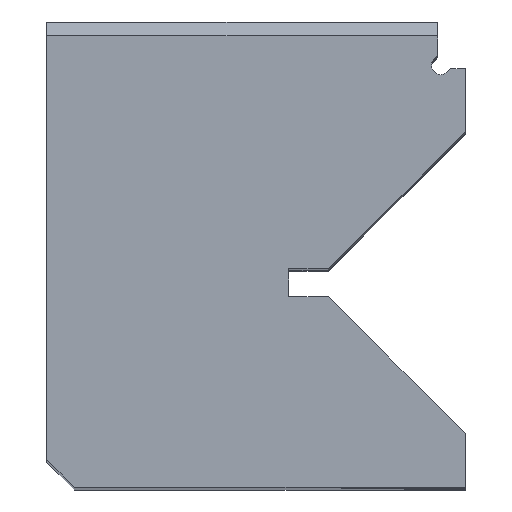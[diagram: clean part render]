
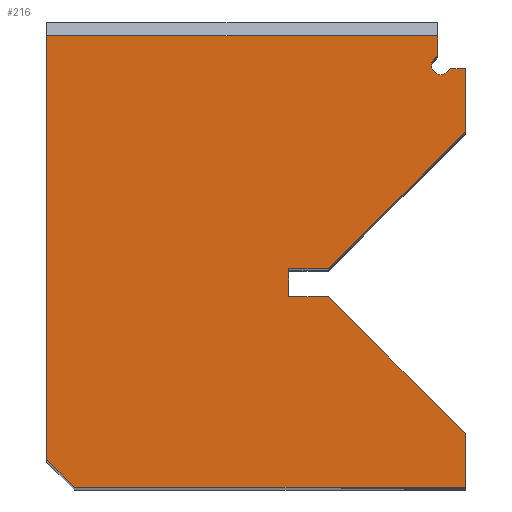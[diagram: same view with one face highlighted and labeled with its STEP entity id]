
A CAD part, top view. The second image highlights one B-rep face of the part: STEP entity #216.
In plain terms, the highlighted planar face has unit normal (0, 0, 1).
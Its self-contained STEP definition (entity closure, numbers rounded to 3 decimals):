
#41 = VERTEX_POINT ( 'NONE', #1010 ) ;
#53 = CARTESIAN_POINT ( 'NONE',  ( 45., 45., 80. ) ) ;
#59 = CARTESIAN_POINT ( 'NONE',  ( 0., 50., 80. ) ) ;
#74 = DIRECTION ( 'NONE',  ( 0., 0., 1. ) ) ;
#102 = VECTOR ( 'NONE', #890, 1000. ) ;
#112 = VECTOR ( 'NONE', #714, 1000. ) ;
#120 = DIRECTION ( 'NONE',  ( 0., -1., 0. ) ) ;
#140 = CARTESIAN_POINT ( 'NONE',  ( 30.287, 23.5, 80. ) ) ;
#145 = EDGE_CURVE ( 'NONE', #1064, #1515, #390, .T. ) ;
#151 = VERTEX_POINT ( 'NONE', #140 ) ;
#162 = ORIENTED_EDGE ( 'NONE', *, *, #233, .F. ) ;
#166 = CARTESIAN_POINT ( 'NONE',  ( 3., 0., 80. ) ) ;
#169 = DIRECTION ( 'NONE',  ( -0.707, -0.707, 0. ) ) ;
#171 = VECTOR ( 'NONE', #286, 1000. ) ;
#175 = CARTESIAN_POINT ( 'NONE',  ( 26., 23.5, 80. ) ) ;
#193 = LINE ( 'NONE', #226, #654 ) ;
#201 = CARTESIAN_POINT ( 'NONE',  ( 45., 0., 80. ) ) ;
#216 = ADVANCED_FACE ( 'NONE', ( #317 ), #597, .T. ) ;
#224 = CARTESIAN_POINT ( 'NONE',  ( 43.414, 45., 80. ) ) ;
#226 = CARTESIAN_POINT ( 'NONE',  ( 30.287, 20.5, 80. ) ) ;
#228 = VERTEX_POINT ( 'NONE', #1452 ) ;
#233 = EDGE_CURVE ( 'NONE', #1276, #540, #1265, .T. ) ;
#234 = ORIENTED_EDGE ( 'NONE', *, *, #612, .T. ) ;
#235 = ORIENTED_EDGE ( 'NONE', *, *, #963, .F. ) ;
#238 = DIRECTION ( 'NONE',  ( 0., 0., 1. ) ) ;
#262 = CARTESIAN_POINT ( 'NONE',  ( 0., 3., 80. ) ) ;
#286 = DIRECTION ( 'NONE',  ( 0., 1., 0. ) ) ;
#300 = CARTESIAN_POINT ( 'NONE',  ( 45., 5.787, 80. ) ) ;
#317 = FACE_OUTER_BOUND ( 'NONE', #527, .T. ) ;
#328 = VECTOR ( 'NONE', #1070, 1000. ) ;
#341 = ORIENTED_EDGE ( 'NONE', *, *, #679, .F. ) ;
#350 = CARTESIAN_POINT ( 'NONE',  ( 45., 38.213, 80. ) ) ;
#367 = LINE ( 'NONE', #1668, #102 ) ;
#373 = EDGE_CURVE ( 'NONE', #151, #1338, #578, .T. ) ;
#390 = LINE ( 'NONE', #659, #171 ) ;
#393 = EDGE_CURVE ( 'NONE', #228, #1515, #193, .T. ) ;
#407 = VERTEX_POINT ( 'NONE', #350 ) ;
#418 = CARTESIAN_POINT ( 'NONE',  ( 26., 20.5, 80. ) ) ;
#438 = CARTESIAN_POINT ( 'NONE',  ( 0., 48.5, 80. ) ) ;
#455 = DIRECTION ( 'NONE',  ( -1., 0., 0. ) ) ;
#460 = DIRECTION ( 'NONE',  ( 0., 1., 0. ) ) ;
#474 = DIRECTION ( 'NONE',  ( 1., 0., 0. ) ) ;
#487 = EDGE_CURVE ( 'NONE', #567, #228, #367, .T. ) ;
#492 = DIRECTION ( 'NONE',  ( 1., 0., 0. ) ) ;
#496 = CARTESIAN_POINT ( 'NONE',  ( 45., 45., 80. ) ) ;
#503 = CARTESIAN_POINT ( 'NONE',  ( 30.287, 23.5, 80. ) ) ;
#505 = VERTEX_POINT ( 'NONE', #262 ) ;
#527 = EDGE_LOOP ( 'NONE', ( #235, #234, #848, #1506, #741, #1400, #927, #1182, #341, #1352, #929, #1104, #1546, #643, #1300, #162 ) ) ;
#540 = VERTEX_POINT ( 'NONE', #1409 ) ;
#567 = VERTEX_POINT ( 'NONE', #418 ) ;
#578 = LINE ( 'NONE', #503, #857 ) ;
#589 = CARTESIAN_POINT ( 'NONE',  ( 45., 38.213, 80. ) ) ;
#594 = DIRECTION ( 'NONE',  ( 0., -1., 0. ) ) ;
#597 = PLANE ( 'NONE',  #1535 ) ;
#612 = EDGE_CURVE ( 'NONE', #1469, #1005, #786, .T. ) ;
#613 = VECTOR ( 'NONE', #120, 1000. ) ;
#643 = ORIENTED_EDGE ( 'NONE', *, *, #735, .F. ) ;
#654 = VECTOR ( 'NONE', #876, 1000. ) ;
#658 = CIRCLE ( 'NONE', #900, 1. ) ;
#659 = CARTESIAN_POINT ( 'NONE',  ( 45., 0., 80. ) ) ;
#674 = LINE ( 'NONE', #175, #328 ) ;
#679 = EDGE_CURVE ( 'NONE', #1338, #567, #674, .T. ) ;
#686 = LINE ( 'NONE', #496, #943 ) ;
#714 = DIRECTION ( 'NONE',  ( -0.707, -0.707, 0. ) ) ;
#735 = EDGE_CURVE ( 'NONE', #1096, #41, #934, .T. ) ;
#741 = ORIENTED_EDGE ( 'NONE', *, *, #818, .T. ) ;
#743 = CARTESIAN_POINT ( 'NONE',  ( 26., 23.5, 80. ) ) ;
#748 = DIRECTION ( 'NONE',  ( -1., 0., 0. ) ) ;
#754 = EDGE_CURVE ( 'NONE', #407, #1653, #1263, .T. ) ;
#786 = LINE ( 'NONE', #438, #1348 ) ;
#818 = EDGE_CURVE ( 'NONE', #1635, #1064, #1369, .T. ) ;
#848 = ORIENTED_EDGE ( 'NONE', *, *, #1659, .T. ) ;
#857 = VECTOR ( 'NONE', #748, 1000. ) ;
#870 = CARTESIAN_POINT ( 'NONE',  ( 42., 46.414, 80. ) ) ;
#876 = DIRECTION ( 'NONE',  ( 0.707, -0.707, 0. ) ) ;
#890 = DIRECTION ( 'NONE',  ( 1., 0., 0. ) ) ;
#899 = VECTOR ( 'NONE', #1667, 1000. ) ;
#900 = AXIS2_PLACEMENT_3D ( 'NONE', #1364, #238, #1225 ) ;
#927 = ORIENTED_EDGE ( 'NONE', *, *, #393, .F. ) ;
#929 = ORIENTED_EDGE ( 'NONE', *, *, #1151, .F. ) ;
#934 = LINE ( 'NONE', #224, #1108 ) ;
#943 = VECTOR ( 'NONE', #492, 1000. ) ;
#950 = CARTESIAN_POINT ( 'NONE',  ( 45., 0., 80. ) ) ;
#963 = EDGE_CURVE ( 'NONE', #1469, #1276, #1279, .T. ) ;
#1005 = VERTEX_POINT ( 'NONE', #1439 ) ;
#1010 = CARTESIAN_POINT ( 'NONE',  ( 43.414, 45., 80. ) ) ;
#1064 = VERTEX_POINT ( 'NONE', #950 ) ;
#1070 = DIRECTION ( 'NONE',  ( 0., -1., 0. ) ) ;
#1072 = CARTESIAN_POINT ( 'NONE',  ( 41.646, 46.061, 80. ) ) ;
#1096 = VERTEX_POINT ( 'NONE', #1479 ) ;
#1104 = ORIENTED_EDGE ( 'NONE', *, *, #754, .T. ) ;
#1108 = VECTOR ( 'NONE', #1365, 1000. ) ;
#1126 = VECTOR ( 'NONE', #1351, 1000. ) ;
#1151 = EDGE_CURVE ( 'NONE', #407, #151, #1420, .T. ) ;
#1152 = LINE ( 'NONE', #1411, #899 ) ;
#1162 = CARTESIAN_POINT ( 'NONE',  ( 42., 48.5, 80. ) ) ;
#1182 = ORIENTED_EDGE ( 'NONE', *, *, #487, .F. ) ;
#1213 = VECTOR ( 'NONE', #594, 1000. ) ;
#1218 = EDGE_CURVE ( 'NONE', #41, #1653, #686, .T. ) ;
#1225 = DIRECTION ( 'NONE',  ( 1., 0., 0. ) ) ;
#1230 = VECTOR ( 'NONE', #460, 1000. ) ;
#1263 = LINE ( 'NONE', #201, #1230 ) ;
#1265 = LINE ( 'NONE', #1072, #1560 ) ;
#1276 = VERTEX_POINT ( 'NONE', #870 ) ;
#1279 = LINE ( 'NONE', #1671, #613 ) ;
#1300 = ORIENTED_EDGE ( 'NONE', *, *, #1605, .F. ) ;
#1313 = CARTESIAN_POINT ( 'NONE',  ( 0., 0., 80. ) ) ;
#1338 = VERTEX_POINT ( 'NONE', #743 ) ;
#1348 = VECTOR ( 'NONE', #455, 1000. ) ;
#1351 = DIRECTION ( 'NONE',  ( 1., 0., 0. ) ) ;
#1352 = ORIENTED_EDGE ( 'NONE', *, *, #373, .F. ) ;
#1364 = CARTESIAN_POINT ( 'NONE',  ( 42.354, 45.354, 80. ) ) ;
#1365 = DIRECTION ( 'NONE',  ( 0.707, 0.707, 0. ) ) ;
#1369 = LINE ( 'NONE', #1612, #1126 ) ;
#1400 = ORIENTED_EDGE ( 'NONE', *, *, #145, .T. ) ;
#1409 = CARTESIAN_POINT ( 'NONE',  ( 41.646, 46.061, 80. ) ) ;
#1411 = CARTESIAN_POINT ( 'NONE',  ( 1.5, 1.5, 80. ) ) ;
#1413 = EDGE_CURVE ( 'NONE', #505, #1635, #1152, .T. ) ;
#1420 = LINE ( 'NONE', #589, #112 ) ;
#1439 = CARTESIAN_POINT ( 'NONE',  ( 0., 48.5, 80. ) ) ;
#1452 = CARTESIAN_POINT ( 'NONE',  ( 30.287, 20.5, 80. ) ) ;
#1469 = VERTEX_POINT ( 'NONE', #1162 ) ;
#1479 = CARTESIAN_POINT ( 'NONE',  ( 43.061, 44.646, 80. ) ) ;
#1506 = ORIENTED_EDGE ( 'NONE', *, *, #1413, .T. ) ;
#1515 = VERTEX_POINT ( 'NONE', #300 ) ;
#1535 = AXIS2_PLACEMENT_3D ( 'NONE', #1313, #74, #474 ) ;
#1546 = ORIENTED_EDGE ( 'NONE', *, *, #1218, .F. ) ;
#1560 = VECTOR ( 'NONE', #169, 1000. ) ;
#1605 = EDGE_CURVE ( 'NONE', #540, #1096, #658, .T. ) ;
#1612 = CARTESIAN_POINT ( 'NONE',  ( 0., 0., 80. ) ) ;
#1631 = LINE ( 'NONE', #59, #1213 ) ;
#1635 = VERTEX_POINT ( 'NONE', #166 ) ;
#1653 = VERTEX_POINT ( 'NONE', #53 ) ;
#1659 = EDGE_CURVE ( 'NONE', #1005, #505, #1631, .T. ) ;
#1667 = DIRECTION ( 'NONE',  ( 0.707, -0.707, 0. ) ) ;
#1668 = CARTESIAN_POINT ( 'NONE',  ( 26., 20.5, 80. ) ) ;
#1671 = CARTESIAN_POINT ( 'NONE',  ( 42., 50., 80. ) ) ;
